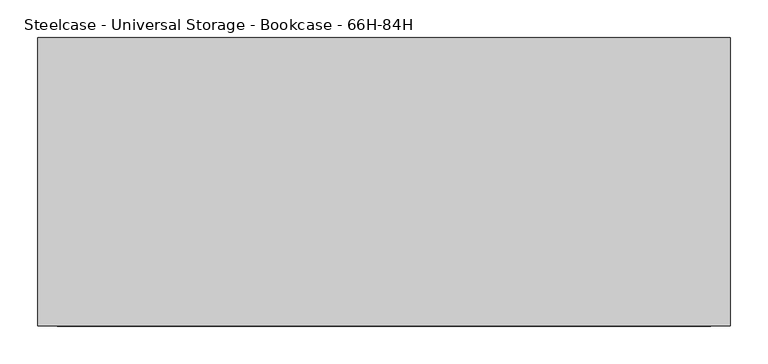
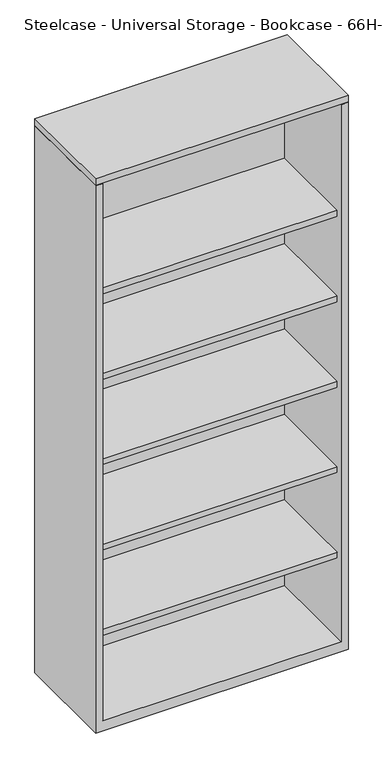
"""IFC4 building model written with IfcOpenShell, lengths in millimetres: furniture geometry, Steelcase - Universal Storage - Bookcase - 66H-84H : 83 1/2H x 36W."""

from ifc_helpers import new_model, si_unit, frame, origin, place, context, project, spatial, polyline, outline, extrude, faceted_brep, source, transform, mapped, element, save


def steelcase_universal_storage_bookcase_66h_84h_36542743(model_context):
    return source(origin(), model_context, "Body", "SolidModel", [
        extrude(outline(polyline([(914.4, -98.552), (914.4, -479.552), (0.0, -479.552), (0.0, -98.552), (914.4, -98.552)])), frame((0.0, 0.0, 2097.0239516), z_axis=(0.0, 0.0, 1.0), x_axis=(1.0, 0.0, 0.0)), (0.0, 0.0, 1.0), 25.4000484),
        extrude(outline(polyline([(889.0000242, -123.9520008), (889.0000242, -454.0250121), (25.4000008, -454.0250121), (25.4000008, -123.9520008), (889.0000242, -123.9520008)])), frame((0.0, 0.0, 344.424), z_axis=(0.0, 0.0, 1.0), x_axis=(1.0, 0.0, 0.0)), (0.0, 0.0, 1.0), 22.2249516),
        extrude(outline(polyline([(889.0000242, -123.9520008), (889.0000242, -454.0250121), (25.4000008, -454.0250121), (25.4000008, -123.9520008), (889.0000242, -123.9520008)])), frame((0.0, 0.0, 671.4489516), z_axis=(0.0, 0.0, 1.0), x_axis=(1.0, 0.0, 0.0)), (0.0, 0.0, 1.0), 22.2249516),
        extrude(outline(polyline([(889.0000242, -123.9520008), (889.0000242, -454.0250121), (25.4000008, -454.0250121), (25.4000008, -123.9520008), (889.0000242, -123.9520008)])), frame((0.0, 0.0, 998.4739031), z_axis=(0.0, 0.0, 1.0), x_axis=(1.0, 0.0, 0.0)), (0.0, 0.0, 1.0), 22.2249516),
        extrude(outline(polyline([(889.0000242, -123.9520008), (889.0000242, -454.0250121), (25.4000008, -454.0250121), (25.4000008, -123.9520008), (889.0000242, -123.9520008)])), frame((0.0, 0.0, 1325.4988547), z_axis=(0.0, 0.0, 1.0), x_axis=(1.0, 0.0, 0.0)), (0.0, 0.0, 1.0), 22.2249516),
        extrude(outline(polyline([(889.0000242, -123.9520008), (889.0000242, -454.0250121), (25.4000008, -454.0250121), (25.4000008, -123.9520008), (889.0000242, -123.9520008)])), frame((0.0, 0.0, 1652.5238062), z_axis=(0.0, 0.0, 1.0), x_axis=(1.0, 0.0, 0.0)), (0.0, 0.0, 1.0), 22.2249516),
        faceted_brep([(25.4000008, -479.552, 38.1), (889.0000242, -479.552, 38.1), (889.0000242, -123.9520008, 38.1), (25.4000008, -123.9520008, 38.1), (914.4, -98.552, 0.0), (914.4, -479.552, 0.0), (0.0, -479.552, 0.0), (0.0, -98.552, 0.0), (0.0, -98.552, 2095.5), (914.4, -98.552, 2095.5), (0.0, -479.552, 2095.5), (914.4, -479.552, 2095.5), (889.0000242, -479.552, 2095.5), (25.4000008, -479.552, 2095.5), (889.0000242, -123.9520008, 2095.5), (25.4000008, -123.9520008, 2095.5)], [[[0, 1, 2, 3]], [[4, 5, 6, 7]], [[4, 7, 8, 9]], [[8, 7, 6, 10]], [[10, 6, 5, 11, 12, 1, 0, 13]], [[11, 5, 4, 9]], [[14, 12, 11, 9, 8, 10, 13, 15]], [[12, 14, 2, 1]], [[15, 13, 0, 3]], [[14, 15, 3, 2]]]),
    ])


if __name__ == "__main__":
    model = new_model("IFC4")
    model_context = context("Model", 3, world=origin())
    ifc_project = project(units=[si_unit("LENGTHUNIT", "METRE", prefix="MILLI")], contexts=[model_context])
    site = spatial("IfcSite", under=ifc_project)
    building = spatial("IfcBuilding", under=site)
    placement = place(None, origin())
    steelcase_universal_storage_bookcase_66h_84h_shape = steelcase_universal_storage_bookcase_66h_84h_36542743(model_context)
    element("IfcFurniture", 1, ObjectType="Steelcase - Universal Storage - Bookcase - 66H-84H : 83 1/2H x 36W", at=placement, inside=building, context=model_context, shape_type="MappedRepresentation", body=[
        mapped(steelcase_universal_storage_bookcase_66h_84h_shape, transform((0.0, 0.0, 0.0), x_axis=(1.0, 0.0, 0.0), y_axis=(0.0, 1.0, 0.0), z_axis=(0.0, 0.0, 1.0))),
    ])
    save(model, "model.ifc")
